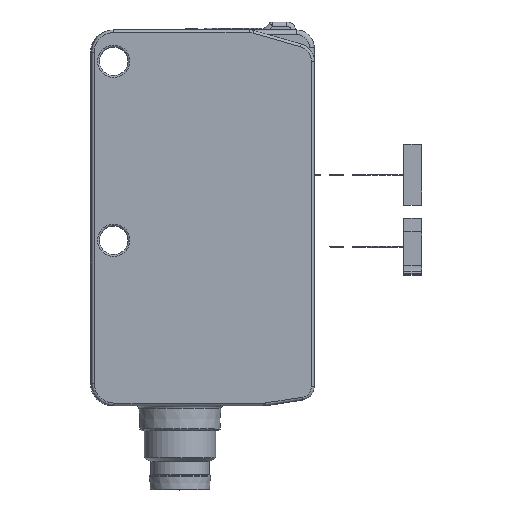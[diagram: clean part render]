
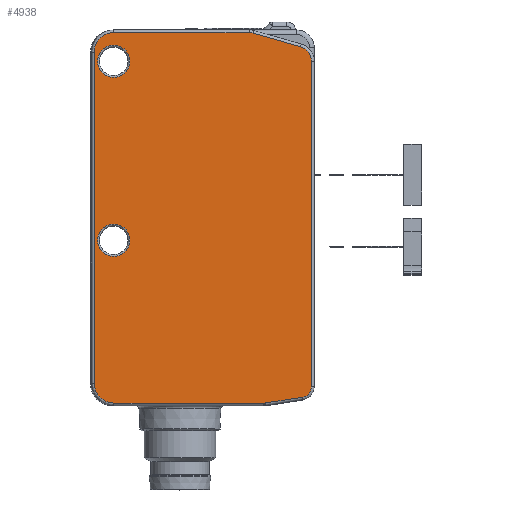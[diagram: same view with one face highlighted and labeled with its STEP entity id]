
A CAD part, top view. The second image highlights one B-rep face of the part: STEP entity #4938.
In plain terms, the highlighted planar face has unit normal (0, 0, 1).
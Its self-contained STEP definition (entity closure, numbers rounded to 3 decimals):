
#3593=FACE_BOUND('',#5871,.T.);
#3594=FACE_BOUND('',#5872,.T.);
#3595=FACE_BOUND('',#5873,.T.);
#3730=PLANE('',#10907);
#3870=CIRCLE('',#10865,1.7);
#3874=CIRCLE('',#10870,1.7);
#3878=CIRCLE('',#10875,1.2);
#3900=CIRCLE('',#10905,1.8);
#3901=CIRCLE('',#10906,1.8);
#4172=LINE('',#13289,#4481);
#4174=LINE('',#13316,#4483);
#4176=LINE('',#13343,#4485);
#4177=LINE('',#13396,#4486);
#4197=LINE('',#13756,#4506);
#4198=LINE('',#13762,#4507);
#4481=VECTOR('',#11536,1.);
#4483=VECTOR('',#11548,1.);
#4485=VECTOR('',#11560,1.);
#4486=VECTOR('',#11569,1.);
#4506=VECTOR('',#11645,1.);
#4507=VECTOR('',#11648,1.);
#4938=ADVANCED_FACE('',(#3593,#3594,#3595),#3730,.T.);
#5871=EDGE_LOOP('',(#7007,#7008,#7009,#7010,#7011,#7012,#7013,#7014,#7015,
#7016,#7017));
#5872=EDGE_LOOP('',(#7018));
#5873=EDGE_LOOP('',(#7019));
#6410=B_SPLINE_CURVE_WITH_KNOTS('',3,(#13765,#13766,#13767,#13768,#13769,
#13770,#13771),.UNSPECIFIED.,.F.,.F.,(4,1,1,1,4),(0.,0.282,
0.52,0.726,1.),.UNSPECIFIED.);
#6411=B_SPLINE_CURVE_WITH_KNOTS('',3,(#13772,#13773,#13774,#13775,#13776,
#13777,#13778),.UNSPECIFIED.,.F.,.F.,(4,1,1,1,4),(0.,0.282,
0.52,0.794,1.),.UNSPECIFIED.);
#7007=ORIENTED_EDGE('',*,*,#9837,.T.);
#7008=ORIENTED_EDGE('',*,*,#9838,.T.);
#7009=ORIENTED_EDGE('',*,*,#9835,.T.);
#7010=ORIENTED_EDGE('',*,*,#9766,.T.);
#7011=ORIENTED_EDGE('',*,*,#9762,.T.);
#7012=ORIENTED_EDGE('',*,*,#9759,.T.);
#7013=ORIENTED_EDGE('',*,*,#9756,.T.);
#7014=ORIENTED_EDGE('',*,*,#9753,.T.);
#7015=ORIENTED_EDGE('',*,*,#9750,.T.);
#7016=ORIENTED_EDGE('',*,*,#9747,.T.);
#7017=ORIENTED_EDGE('',*,*,#9839,.T.);
#7018=ORIENTED_EDGE('',*,*,#9840,.T.);
#7019=ORIENTED_EDGE('',*,*,#9841,.T.);
#9016=VERTEX_POINT('',#13284);
#9017=VERTEX_POINT('',#13288);
#9019=VERTEX_POINT('',#13293);
#9021=VERTEX_POINT('',#13314);
#9023=VERTEX_POINT('',#13320);
#9024=VERTEX_POINT('',#13340);
#9027=VERTEX_POINT('',#13347);
#9028=VERTEX_POINT('',#13373);
#9088=VERTEX_POINT('',#13757);
#9089=VERTEX_POINT('',#13763);
#9090=VERTEX_POINT('',#13764);
#9091=VERTEX_POINT('',#13780);
#9092=VERTEX_POINT('',#13782);
#9747=EDGE_CURVE('',#9016,#9017,#4172,.T.);
#9750=EDGE_CURVE('',#9019,#9016,#3870,.T.);
#9753=EDGE_CURVE('',#9021,#9019,#4174,.T.);
#9756=EDGE_CURVE('',#9023,#9021,#3874,.T.);
#9759=EDGE_CURVE('',#9024,#9023,#4176,.T.);
#9762=EDGE_CURVE('',#9027,#9024,#3878,.T.);
#9766=EDGE_CURVE('',#9028,#9027,#4177,.T.);
#9835=EDGE_CURVE('',#9088,#9028,#4197,.T.);
#9837=EDGE_CURVE('',#9089,#9090,#4198,.T.);
#9838=EDGE_CURVE('',#9090,#9088,#6410,.T.);
#9839=EDGE_CURVE('',#9017,#9089,#6411,.T.);
#9840=EDGE_CURVE('',#9091,#9091,#3900,.T.);
#9841=EDGE_CURVE('',#9092,#9092,#3901,.T.);
#10865=AXIS2_PLACEMENT_3D('',#13295,#11543,#11544);
#10870=AXIS2_PLACEMENT_3D('',#13322,#11555,#11556);
#10875=AXIS2_PLACEMENT_3D('',#13349,#11567,#11568);
#10905=AXIS2_PLACEMENT_3D('',#13779,#11649,#11650);
#10906=AXIS2_PLACEMENT_3D('',#13781,#11651,#11652);
#10907=AXIS2_PLACEMENT_3D('',#13783,#11653,#11654);
#11536=DIRECTION('',(-1.,0.,0.));
#11543=DIRECTION('',(0.,0.,1.));
#11544=DIRECTION('',(0.,-1.,0.));
#11548=DIRECTION('',(-0.962,0.275,0.));
#11555=DIRECTION('',(0.,0.,1.));
#11556=DIRECTION('',(1.,0.,0.));
#11560=DIRECTION('',(0.,1.,0.));
#11567=DIRECTION('',(0.,0.,1.));
#11568=DIRECTION('',(1.,0.,0.));
#11569=DIRECTION('',(0.988,0.153,0.));
#11645=DIRECTION('',(1.,0.,0.));
#11648=DIRECTION('',(0.,-1.,0.));
#11649=DIRECTION('',(0.,0.,-1.));
#11650=DIRECTION('',(-1.,0.,0.));
#11651=DIRECTION('',(0.,0.,-1.));
#11652=DIRECTION('',(-1.,0.,0.));
#11653=DIRECTION('',(0.,0.,1.));
#11654=DIRECTION('',(1.,0.,0.));
#13284=CARTESIAN_POINT('',(15.12,23.2,14.));
#13288=CARTESIAN_POINT('',(0.017,23.2,14.));
#13289=CARTESIAN_POINT('',(7.569,23.2,14.));
#13293=CARTESIAN_POINT('',(15.587,23.135,14.));
#13295=CARTESIAN_POINT('',(15.12,21.5,14.));
#13314=CARTESIAN_POINT('',(20.867,21.626,14.));
#13316=CARTESIAN_POINT('',(18.227,22.38,14.));
#13320=CARTESIAN_POINT('',(22.1,19.991,14.));
#13322=CARTESIAN_POINT('',(20.4,19.991,14.));
#13340=CARTESIAN_POINT('',(22.1,-16.364,14.));
#13343=CARTESIAN_POINT('',(22.1,1.814,14.));
#13347=CARTESIAN_POINT('',(21.083,-17.55,14.));
#13349=CARTESIAN_POINT('',(20.9,-16.364,14.));
#13373=CARTESIAN_POINT('',(16.877,-18.2,14.));
#13396=CARTESIAN_POINT('',(18.98,-17.875,14.));
#13756=CARTESIAN_POINT('',(8.447,-18.2,14.));
#13757=CARTESIAN_POINT('',(0.017,-18.2,14.));
#13762=CARTESIAN_POINT('',(-2.183,11.75,14.));
#13763=CARTESIAN_POINT('',(-2.183,21.,14.));
#13764=CARTESIAN_POINT('',(-2.183,-16.,14.));
#13765=CARTESIAN_POINT('',(-2.183,-16.,14.));
#13766=CARTESIAN_POINT('',(-2.183,-16.325,14.));
#13767=CARTESIAN_POINT('',(-2.048,-16.923,14.));
#13768=CARTESIAN_POINT('',(-1.547,-17.61,14.));
#13769=CARTESIAN_POINT('',(-0.852,-18.079,14.));
#13770=CARTESIAN_POINT('',(-0.299,-18.2,14.));
#13771=CARTESIAN_POINT('',(0.017,-18.2,14.));
#13772=CARTESIAN_POINT('',(0.017,23.2,14.));
#13773=CARTESIAN_POINT('',(-0.307,23.2,14.));
#13774=CARTESIAN_POINT('',(-0.906,23.065,14.));
#13775=CARTESIAN_POINT('',(-1.658,22.517,14.));
#13776=CARTESIAN_POINT('',(-2.093,21.791,14.));
#13777=CARTESIAN_POINT('',(-2.183,21.237,14.));
#13778=CARTESIAN_POINT('',(-2.183,21.,14.));
#13779=CARTESIAN_POINT('',(0.,0.,14.));
#13780=CARTESIAN_POINT('',(-1.8,0.,14.));
#13781=CARTESIAN_POINT('',(0.,20.,14.));
#13782=CARTESIAN_POINT('',(-1.8,20.,14.));
#13783=CARTESIAN_POINT('',(23.65,25.6,14.));
